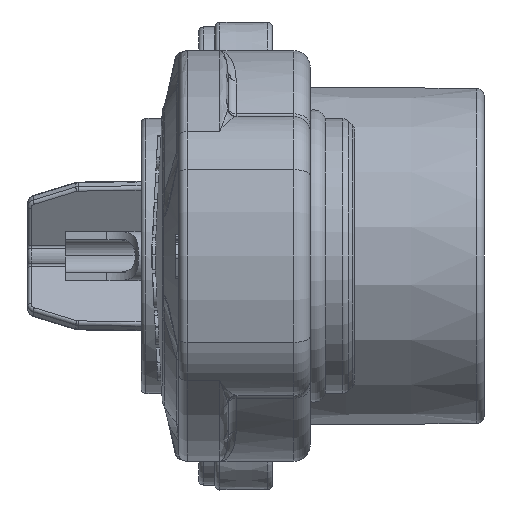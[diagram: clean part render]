
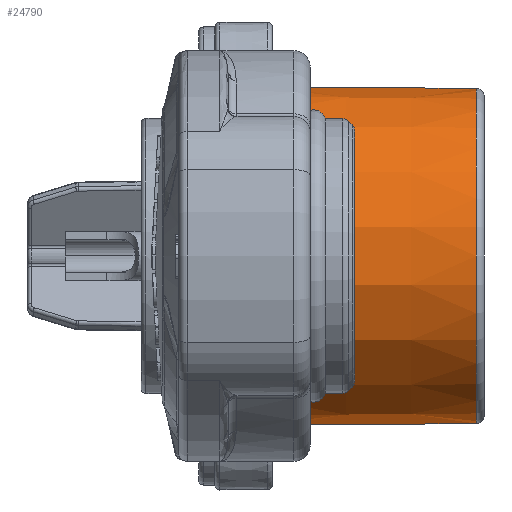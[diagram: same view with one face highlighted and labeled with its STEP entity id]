
A CAD part, front view. The second image highlights one B-rep face of the part: STEP entity #24790.
In plain terms, the highlighted conical face has half-angle 0.5 degrees and reference radius 10.2 mm.
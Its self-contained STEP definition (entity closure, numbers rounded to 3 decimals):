
#3389 = EDGE_CURVE ( 'NONE', #15740, #13521, #7219, .T. ) ;
#5456 = CARTESIAN_POINT ( 'NONE',  ( -12.404, 0., -10.308 ) ) ;
#7219 = LINE ( 'NONE', #15263, #45054 ) ;
#8988 = CIRCLE ( 'NONE', #14754, 10.204 ) ;
#9295 = DIRECTION ( 'NONE',  ( -1., 0., 0. ) ) ;
#9930 = DIRECTION ( 'NONE',  ( 1., 0., 0. ) ) ;
#10986 = CONICAL_SURFACE ( 'NONE', #35831, 10.2, 0.009 ) ;
#11073 = EDGE_CURVE ( 'NONE', #32992, #13521, #11097, .T. ) ;
#11097 = CIRCLE ( 'NONE', #45867, 10.308 ) ;
#12200 = CARTESIAN_POINT ( 'NONE',  ( -0.496, 0., -10.204 ) ) ;
#13521 = VERTEX_POINT ( 'NONE', #5456 ) ;
#14754 = AXIS2_PLACEMENT_3D ( 'NONE', #38332, #51307, #31592 ) ;
#15162 = CARTESIAN_POINT ( 'NONE',  ( 0., 0., 10.2 ) ) ;
#15263 = CARTESIAN_POINT ( 'NONE',  ( 0., 0., -10.2 ) ) ;
#15740 = VERTEX_POINT ( 'NONE', #12200 ) ;
#19298 = DIRECTION ( 'NONE',  ( -1., 0., 0.009 ) ) ;
#19561 = LINE ( 'NONE', #15162, #34491 ) ;
#20961 = CARTESIAN_POINT ( 'NONE',  ( 0., 0., 0. ) ) ;
#23412 = ORIENTED_EDGE ( 'NONE', *, *, #3389, .F. ) ;
#23960 = ORIENTED_EDGE ( 'NONE', *, *, #49402, .T. ) ;
#24723 = ORIENTED_EDGE ( 'NONE', *, *, #11073, .T. ) ;
#24790 = ADVANCED_FACE ( 'NONE', ( #41163 ), #10986, .T. ) ;
#25094 = DIRECTION ( 'NONE',  ( 0., 0., -1. ) ) ;
#26904 = DIRECTION ( 'NONE',  ( -1., 0., -0.009 ) ) ;
#27893 = CARTESIAN_POINT ( 'NONE',  ( -12.404, 0., 10.308 ) ) ;
#29662 = EDGE_CURVE ( 'NONE', #15740, #47440, #8988, .T. ) ;
#31592 = DIRECTION ( 'NONE',  ( 0., 0., -1. ) ) ;
#32992 = VERTEX_POINT ( 'NONE', #27893 ) ;
#33514 = CARTESIAN_POINT ( 'NONE',  ( -12.404, 0., 0. ) ) ;
#34491 = VECTOR ( 'NONE', #19298, 1000. ) ;
#35831 = AXIS2_PLACEMENT_3D ( 'NONE', #20961, #9295, #25094 ) ;
#38332 = CARTESIAN_POINT ( 'NONE',  ( -0.496, 0., 0. ) ) ;
#41163 = FACE_OUTER_BOUND ( 'NONE', #42296, .T. ) ;
#41609 = ORIENTED_EDGE ( 'NONE', *, *, #29662, .T. ) ;
#41798 = DIRECTION ( 'NONE',  ( 0., 0., 1. ) ) ;
#42296 = EDGE_LOOP ( 'NONE', ( #41609, #23960, #24723, #23412 ) ) ;
#45054 = VECTOR ( 'NONE', #26904, 1000. ) ;
#45867 = AXIS2_PLACEMENT_3D ( 'NONE', #33514, #9930, #41798 ) ;
#47440 = VERTEX_POINT ( 'NONE', #48208 ) ;
#48208 = CARTESIAN_POINT ( 'NONE',  ( -0.496, 0., 10.204 ) ) ;
#49402 = EDGE_CURVE ( 'NONE', #47440, #32992, #19561, .T. ) ;
#51307 = DIRECTION ( 'NONE',  ( -1., 0., 0. ) ) ;
